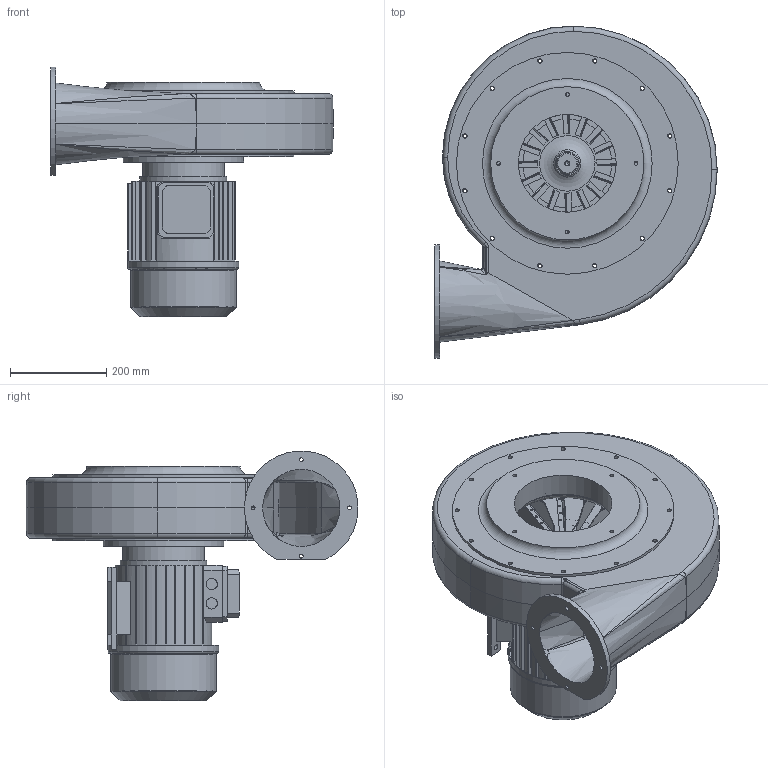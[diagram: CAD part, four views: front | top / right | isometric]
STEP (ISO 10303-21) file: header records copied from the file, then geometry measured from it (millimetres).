
FILE_DESCRIPTION(/* description */ (''),/* implementation_level */ '2;1');
FILE_NAME(/* name */ 'T:\Drawings\Standard Drawings\DATA Web Downloads\3D FILES\MR400R _ 3D12-0232.stp',/* time_stamp */ '2015-02-18T16:43:53+00:00',/* author */ ('mtinkler'),/* organization */ (''),/* preprocessor_version */ 'ST-DEVELOPER v15.6',/* originating_system */ 'Autodesk Inventor 2015',/* authorisation */ '');
FILE_SCHEMA (('AUTOMOTIVE_DESIGN { 1 0 10303 214 3 1 1 }'));
Length unit declared in the file: centimetre
Products named in the file (1): 3D12-0232
Bounding box: 586 x 688.6 x 517.55 mm (x, y, z)
Volume: 15172075.4 mm3; surface area: 3185236.9 mm2
Topology: 27 solids, 27 shells, 1493 faces, 3939 edges, 2522 vertices
Faces by surface type: plane 907, cylinder 453, torus 51, bspline 48, cone 30, sphere 4
Full cylindrical faces by diameter (mm): 4 x240, 6 x2, 8 x32, 8.376 x1, 9 x24, 10.5 x1, 11 x4, 14 x4, 14.5 x4, 23.376 x2, 28 x1, 40 x1, 44 x1, 45 x1, 150 x1, 170 x1, 180 x2, 181 x1, 203 x1, 209 x1, 216.8 x1, 220 x1, 226.8 x1, 230 x1, 250 x1, 406 x2, 420 x2, 460 x2
Entity records: 50070 total; most frequent: CARTESIAN_POINT 11274, DIRECTION 7272, ORIENTED_EDGE 7108, EDGE_CURVE 3554, EDGE_LOOP 2747, VERTEX_POINT 2511, AXIS2_PLACEMENT_3D 2438, LINE 2396
